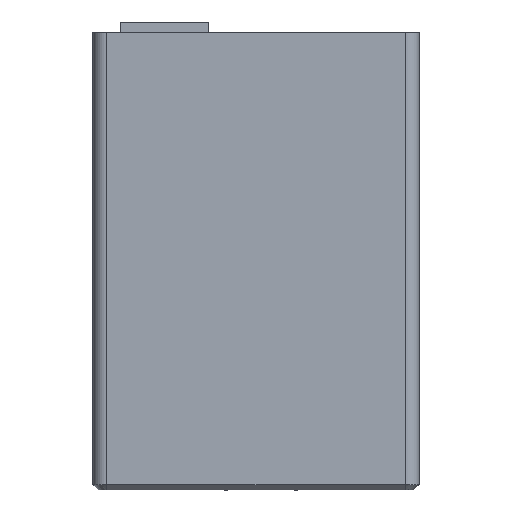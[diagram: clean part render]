
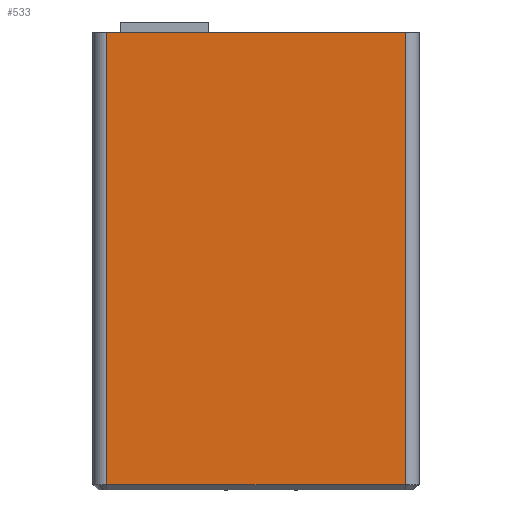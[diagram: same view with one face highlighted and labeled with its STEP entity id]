
A CAD part, front view. The second image highlights one B-rep face of the part: STEP entity #533.
In plain terms, the highlighted planar face has unit normal (0, -1, 0).
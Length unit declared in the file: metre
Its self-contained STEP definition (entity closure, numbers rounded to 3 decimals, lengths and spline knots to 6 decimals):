
#533 = ADVANCED_FACE( '', ( #1159 ), #1160, .F. );
#1159 = FACE_OUTER_BOUND( '', #1847, .T. );
#1160 = PLANE( '', #1848 );
#1847 = EDGE_LOOP( '', ( #3585, #3586, #3587, #3588 ) );
#1848 = AXIS2_PLACEMENT_3D( '', #3589, #3590, #3591 );
#3585 = ORIENTED_EDGE( '', *, *, #4946, .T. );
#3586 = ORIENTED_EDGE( '', *, *, #4947, .T. );
#3587 = ORIENTED_EDGE( '', *, *, #4813, .T. );
#3588 = ORIENTED_EDGE( '', *, *, #4948, .F. );
#3589 = CARTESIAN_POINT( '', ( -0.029, -0.00835, 0.085 ) );
#3590 = DIRECTION( '', ( 0., 1., 0. ) );
#3591 = DIRECTION( '', ( 1., 0., 0. ) );
#4813 = EDGE_CURVE( '', #6049, #6050, #6051, .T. );
#4946 = EDGE_CURVE( '', #6214, #6215, #6216, .T. );
#4947 = EDGE_CURVE( '', #6215, #6049, #6217, .T. );
#4948 = EDGE_CURVE( '', #6214, #6050, #6218, .T. );
#6049 = VERTEX_POINT( '', #7704 );
#6050 = VERTEX_POINT( '', #7705 );
#6051 = LINE( '', #7706, #7707 );
#6214 = VERTEX_POINT( '', #7939 );
#6215 = VERTEX_POINT( '', #7940 );
#6216 = LINE( '', #7941, #7942 );
#6217 = LINE( '', #7943, #7944 );
#6218 = LINE( '', #7945, #7946 );
#7704 = CARTESIAN_POINT( '', ( 0.028, -0.00835, 0.0002 ) );
#7705 = CARTESIAN_POINT( '', ( 0.028, -0.00835, 0.085 ) );
#7706 = CARTESIAN_POINT( '', ( 0.028, -0.00835, 0.085 ) );
#7707 = VECTOR( '', #8876, 1. );
#7939 = CARTESIAN_POINT( '', ( -0.028, -0.00835, 0.085 ) );
#7940 = CARTESIAN_POINT( '', ( -0.028, -0.00835, 0.0002 ) );
#7941 = CARTESIAN_POINT( '', ( -0.028, -0.00835, 0.085 ) );
#7942 = VECTOR( '', #9017, 1. );
#7943 = CARTESIAN_POINT( '', ( 0.028, -0.00835, 0.0002 ) );
#7944 = VECTOR( '', #9018, 1. );
#7945 = CARTESIAN_POINT( '', ( -0.029, -0.00835, 0.085 ) );
#7946 = VECTOR( '', #9019, 1. );
#8876 = DIRECTION( '', ( 0., 0., 1. ) );
#9017 = DIRECTION( '', ( 0., 0., -1. ) );
#9018 = DIRECTION( '', ( 1., 0., 0. ) );
#9019 = DIRECTION( '', ( 1., 0., 0. ) );
